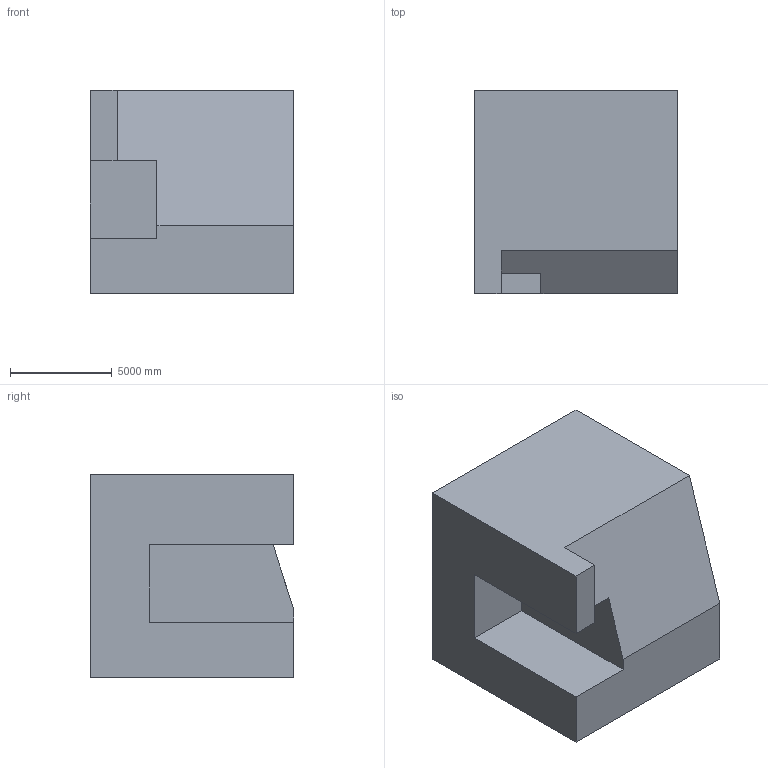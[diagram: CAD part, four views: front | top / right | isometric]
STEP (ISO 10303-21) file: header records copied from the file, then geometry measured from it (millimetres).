
FILE_DESCRIPTION (( 'STEP AP203' ), '1' );
FILE_NAME ('44.STEP', '2022-07-28T13:28:48', ( 'user' ), ( '' ), 'SwSTEP 2.0', 'SolidWorks 2021', '' );
FILE_SCHEMA (( 'CONFIG_CONTROL_DESIGN' ));
Length unit declared in the file: centimetre
Products named in the file (1): 44
Bounding box: 10000 x 10000 x 10000 mm (x, y, z)
Volume: 853686682650.7 mm3; surface area: 625481826.4 mm2
Topology: 1 solids, 1 shells, 13 faces, 33 edges, 22 vertices
Faces by surface type: plane 13
Entity records: 464 total; most frequent: CARTESIAN_POINT 69, ORIENTED_EDGE 66, DIRECTION 61, VECTOR 33, LINE 33, EDGE_CURVE 33, VERTEX_POINT 22, AXIS2_PLACEMENT_3D 14
